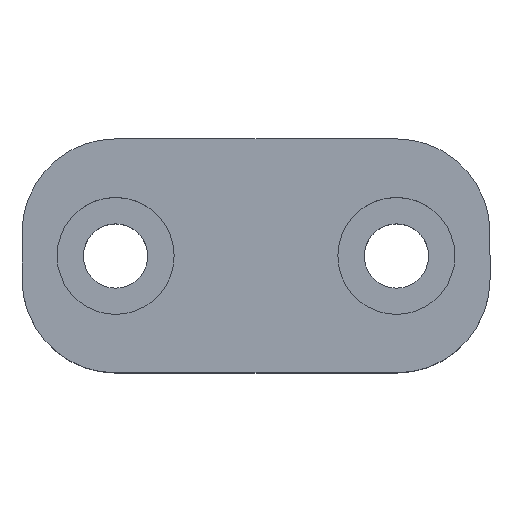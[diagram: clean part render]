
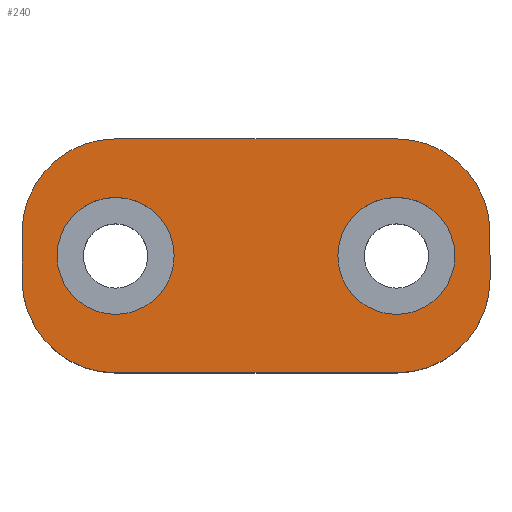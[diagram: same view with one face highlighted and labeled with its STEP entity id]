
A CAD part, top view. The second image highlights one B-rep face of the part: STEP entity #240.
In plain terms, the highlighted planar face has unit normal (0, 0, 1).
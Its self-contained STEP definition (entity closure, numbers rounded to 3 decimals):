
#1 = DIRECTION ( 'NONE',  ( 0., 0., 1. ) ) ;
#2 = CIRCLE ( 'NONE', #396, 8. ) ;
#13 = EDGE_CURVE ( 'NONE', #563, #684, #2, .T. ) ;
#29 = CARTESIAN_POINT ( 'NONE',  ( 12., 0., 12.1 ) ) ;
#56 = ORIENTED_EDGE ( 'NONE', *, *, #13, .T. ) ;
#62 = EDGE_CURVE ( 'NONE', #782, #399, #468, .T. ) ;
#85 = CARTESIAN_POINT ( 'NONE',  ( 20., 2., 12.1 ) ) ;
#87 = ORIENTED_EDGE ( 'NONE', *, *, #528, .F. ) ;
#109 = EDGE_LOOP ( 'NONE', ( #461, #119, #606, #649, #56, #674, #172, #350 ) ) ;
#110 = DIRECTION ( 'NONE',  ( 0., 0., 1. ) ) ;
#114 = CARTESIAN_POINT ( 'NONE',  ( -20., -2., 12.1 ) ) ;
#119 = ORIENTED_EDGE ( 'NONE', *, *, #62, .T. ) ;
#122 = VERTEX_POINT ( 'NONE', #246 ) ;
#138 = EDGE_CURVE ( 'NONE', #283, #563, #845, .T. ) ;
#139 = CARTESIAN_POINT ( 'NONE',  ( 12., -10., 12.1 ) ) ;
#151 = CARTESIAN_POINT ( 'NONE',  ( -12., 0., 12.1 ) ) ;
#158 = CARTESIAN_POINT ( 'NONE',  ( -12., -2., 12.1 ) ) ;
#172 = ORIENTED_EDGE ( 'NONE', *, *, #788, .T. ) ;
#180 = EDGE_CURVE ( 'NONE', #399, #283, #395, .T. ) ;
#193 = CARTESIAN_POINT ( 'NONE',  ( -7., 0., 12.1 ) ) ;
#199 = EDGE_CURVE ( 'NONE', #472, #782, #558, .T. ) ;
#203 = AXIS2_PLACEMENT_3D ( 'NONE', #29, #287, #290 ) ;
#224 = EDGE_CURVE ( 'NONE', #684, #455, #354, .T. ) ;
#240 = ADVANCED_FACE ( 'NONE', ( #809, #655, #678 ), #673, .T. ) ;
#246 = CARTESIAN_POINT ( 'NONE',  ( 20., -2., 12.1 ) ) ;
#269 = DIRECTION ( 'NONE',  ( 0., 0., 1. ) ) ;
#276 = VERTEX_POINT ( 'NONE', #193 ) ;
#278 = DIRECTION ( 'NONE',  ( 0., 0., 1. ) ) ;
#281 = EDGE_CURVE ( 'NONE', #776, #276, #600, .T. ) ;
#283 = VERTEX_POINT ( 'NONE', #680 ) ;
#287 = DIRECTION ( 'NONE',  ( 0., 0., 1. ) ) ;
#289 = CIRCLE ( 'NONE', #320, 5. ) ;
#290 = DIRECTION ( 'NONE',  ( 1., 0., 0. ) ) ;
#311 = EDGE_CURVE ( 'NONE', #276, #776, #289, .T. ) ;
#316 = ORIENTED_EDGE ( 'NONE', *, *, #435, .F. ) ;
#320 = AXIS2_PLACEMENT_3D ( 'NONE', #802, #556, #553 ) ;
#341 = CIRCLE ( 'NONE', #518, 5. ) ;
#347 = DIRECTION ( 'NONE',  ( 0., 0., 1. ) ) ;
#350 = ORIENTED_EDGE ( 'NONE', *, *, #775, .T. ) ;
#354 = LINE ( 'NONE', #139, #425 ) ;
#392 = AXIS2_PLACEMENT_3D ( 'NONE', #778, #110, #831 ) ;
#395 = CIRCLE ( 'NONE', #474, 8. ) ;
#396 = AXIS2_PLACEMENT_3D ( 'NONE', #158, #562, #484 ) ;
#399 = VERTEX_POINT ( 'NONE', #415 ) ;
#403 = VECTOR ( 'NONE', #820, 1000. ) ;
#406 = DIRECTION ( 'NONE',  ( 1., 0., 0. ) ) ;
#415 = CARTESIAN_POINT ( 'NONE',  ( -12., 10., 12.1 ) ) ;
#425 = VECTOR ( 'NONE', #735, 1000. ) ;
#432 = DIRECTION ( 'NONE',  ( 1., 0., 0. ) ) ;
#434 = CIRCLE ( 'NONE', #392, 8. ) ;
#435 = EDGE_CURVE ( 'NONE', #661, #565, #341, .T. ) ;
#444 = CARTESIAN_POINT ( 'NONE',  ( 20., -2., 12.1 ) ) ;
#445 = CARTESIAN_POINT ( 'NONE',  ( 7., 0., 12.1 ) ) ;
#455 = VERTEX_POINT ( 'NONE', #819 ) ;
#460 = CARTESIAN_POINT ( 'NONE',  ( -20., -2., 12.1 ) ) ;
#461 = ORIENTED_EDGE ( 'NONE', *, *, #199, .T. ) ;
#468 = LINE ( 'NONE', #504, #403 ) ;
#472 = VERTEX_POINT ( 'NONE', #85 ) ;
#474 = AXIS2_PLACEMENT_3D ( 'NONE', #536, #1, #795 ) ;
#484 = DIRECTION ( 'NONE',  ( -1., 0., 0. ) ) ;
#504 = CARTESIAN_POINT ( 'NONE',  ( 12., 10., 12.1 ) ) ;
#515 = CARTESIAN_POINT ( 'NONE',  ( -17., 0., 12.1 ) ) ;
#518 = AXIS2_PLACEMENT_3D ( 'NONE', #626, #347, #432 ) ;
#527 = CARTESIAN_POINT ( 'NONE',  ( 12., 2., 12.1 ) ) ;
#528 = EDGE_CURVE ( 'NONE', #565, #661, #616, .T. ) ;
#536 = CARTESIAN_POINT ( 'NONE',  ( -12., 2., 12.1 ) ) ;
#553 = DIRECTION ( 'NONE',  ( 1., 0., 0. ) ) ;
#556 = DIRECTION ( 'NONE',  ( 0., 0., 1. ) ) ;
#558 = CIRCLE ( 'NONE', #770, 8. ) ;
#562 = DIRECTION ( 'NONE',  ( 0., 0., 1. ) ) ;
#563 = VERTEX_POINT ( 'NONE', #114 ) ;
#565 = VERTEX_POINT ( 'NONE', #588 ) ;
#588 = CARTESIAN_POINT ( 'NONE',  ( 17., 0., 12.1 ) ) ;
#600 = CIRCLE ( 'NONE', #803, 5. ) ;
#606 = ORIENTED_EDGE ( 'NONE', *, *, #180, .T. ) ;
#613 = EDGE_LOOP ( 'NONE', ( #623, #707 ) ) ;
#616 = CIRCLE ( 'NONE', #203, 5. ) ;
#623 = ORIENTED_EDGE ( 'NONE', *, *, #311, .F. ) ;
#626 = CARTESIAN_POINT ( 'NONE',  ( 12., 0., 12.1 ) ) ;
#649 = ORIENTED_EDGE ( 'NONE', *, *, #138, .T. ) ;
#651 = DIRECTION ( 'NONE',  ( 0., 1., 0. ) ) ;
#652 = CARTESIAN_POINT ( 'NONE',  ( -12., -10., 12.1 ) ) ;
#655 = FACE_BOUND ( 'NONE', #613, .T. ) ;
#661 = VERTEX_POINT ( 'NONE', #445 ) ;
#664 = CARTESIAN_POINT ( 'NONE',  ( 12., 10., 12.1 ) ) ;
#666 = AXIS2_PLACEMENT_3D ( 'NONE', #527, #675, #740 ) ;
#667 = VECTOR ( 'NONE', #651, 1000. ) ;
#673 = PLANE ( 'NONE',  #666 ) ;
#674 = ORIENTED_EDGE ( 'NONE', *, *, #224, .T. ) ;
#675 = DIRECTION ( 'NONE',  ( 0., 0., 1. ) ) ;
#678 = FACE_OUTER_BOUND ( 'NONE', #109, .T. ) ;
#679 = CARTESIAN_POINT ( 'NONE',  ( 12., 2., 12.1 ) ) ;
#680 = CARTESIAN_POINT ( 'NONE',  ( -20., 2., 12.1 ) ) ;
#684 = VERTEX_POINT ( 'NONE', #652 ) ;
#703 = LINE ( 'NONE', #444, #667 ) ;
#707 = ORIENTED_EDGE ( 'NONE', *, *, #281, .F. ) ;
#735 = DIRECTION ( 'NONE',  ( 1., 0., 0. ) ) ;
#740 = DIRECTION ( 'NONE',  ( 1., 0., 0. ) ) ;
#752 = EDGE_LOOP ( 'NONE', ( #87, #316 ) ) ;
#770 = AXIS2_PLACEMENT_3D ( 'NONE', #679, #269, #840 ) ;
#775 = EDGE_CURVE ( 'NONE', #122, #472, #703, .T. ) ;
#776 = VERTEX_POINT ( 'NONE', #515 ) ;
#778 = CARTESIAN_POINT ( 'NONE',  ( 12., -2., 12.1 ) ) ;
#782 = VERTEX_POINT ( 'NONE', #664 ) ;
#788 = EDGE_CURVE ( 'NONE', #455, #122, #434, .T. ) ;
#795 = DIRECTION ( 'NONE',  ( 1., 0., 0. ) ) ;
#802 = CARTESIAN_POINT ( 'NONE',  ( -12., 0., 12.1 ) ) ;
#803 = AXIS2_PLACEMENT_3D ( 'NONE', #151, #278, #406 ) ;
#809 = FACE_BOUND ( 'NONE', #752, .T. ) ;
#819 = CARTESIAN_POINT ( 'NONE',  ( 12., -10., 12.1 ) ) ;
#820 = DIRECTION ( 'NONE',  ( -1., 0., 0. ) ) ;
#829 = VECTOR ( 'NONE', #843, 1000. ) ;
#831 = DIRECTION ( 'NONE',  ( 1., 0., 0. ) ) ;
#840 = DIRECTION ( 'NONE',  ( 1., 0., 0. ) ) ;
#843 = DIRECTION ( 'NONE',  ( 0., -1., 0. ) ) ;
#845 = LINE ( 'NONE', #460, #829 ) ;
